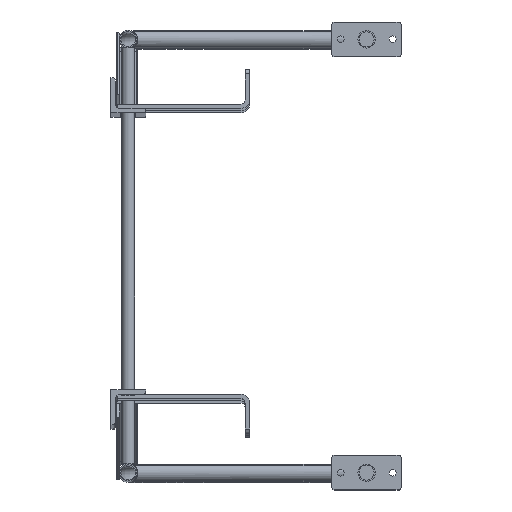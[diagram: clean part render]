
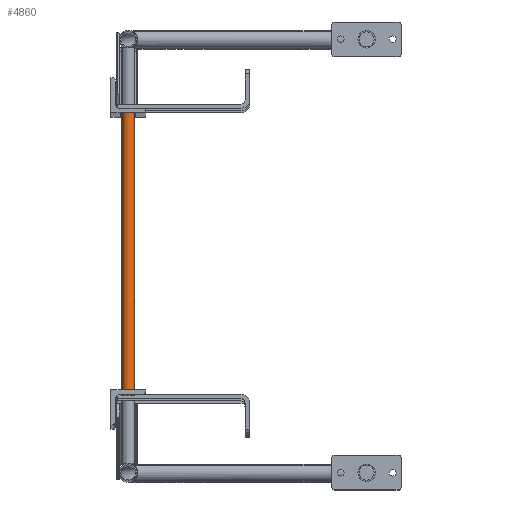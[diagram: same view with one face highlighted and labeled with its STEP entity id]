
A CAD part, top view. The second image highlights one B-rep face of the part: STEP entity #4860.
In plain terms, the highlighted cylindrical face has radius 9.525 mm (diameter 19.05 mm), a full revolution.
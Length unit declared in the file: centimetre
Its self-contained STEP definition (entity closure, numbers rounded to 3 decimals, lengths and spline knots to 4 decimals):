
#868=FACE_BOUND('',#1345,.T.);
#1048=FACE_OUTER_BOUND('',#1344,.T.);
#1344=EDGE_LOOP('',(#3232));
#1345=EDGE_LOOP('',(#3233));
#1792=CIRCLE('',#5196,0.9525);
#1793=CIRCLE('',#5197,0.9525);
#2088=VERTEX_POINT('',#7505);
#2089=VERTEX_POINT('',#7507);
#2558=EDGE_CURVE('',#2088,#2088,#1792,.T.);
#2559=EDGE_CURVE('',#2089,#2089,#1793,.T.);
#3232=ORIENTED_EDGE('',*,*,#2558,.T.);
#3233=ORIENTED_EDGE('',*,*,#2559,.F.);
#4412=CYLINDRICAL_SURFACE('',#5195,0.9525);
#4860=ADVANCED_FACE('',(#1048,#868),#4412,.T.);
#5195=AXIS2_PLACEMENT_3D('',#7504,#5831,#5832);
#5196=AXIS2_PLACEMENT_3D('',#7506,#5833,#5834);
#5197=AXIS2_PLACEMENT_3D('',#7508,#5835,#5836);
#5831=DIRECTION('center_axis',(0.,-1.,0.));
#5832=DIRECTION('ref_axis',(1.,0.,0.));
#5833=DIRECTION('center_axis',(0.,1.,0.));
#5834=DIRECTION('ref_axis',(1.,0.,0.));
#5835=DIRECTION('center_axis',(0.,1.,0.));
#5836=DIRECTION('ref_axis',(1.,0.,0.));
#7504=CARTESIAN_POINT('Origin',(2.54,0.4762,400.05));
#7505=CARTESIAN_POINT('',(1.5875,-41.4338,400.05));
#7506=CARTESIAN_POINT('Origin',(2.54,-41.4338,400.05));
#7507=CARTESIAN_POINT('',(1.5875,0.4762,400.05));
#7508=CARTESIAN_POINT('Origin',(2.54,0.4762,400.05));
